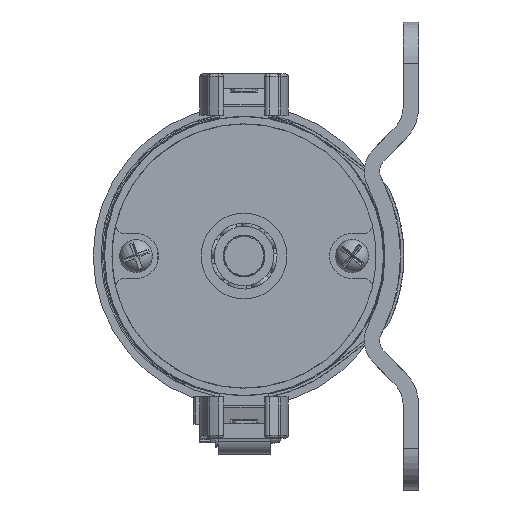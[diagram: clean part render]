
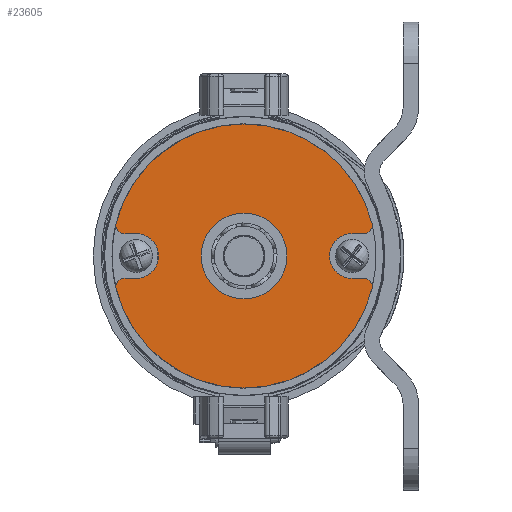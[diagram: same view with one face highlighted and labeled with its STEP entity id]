
A CAD part, left-side view. The second image highlights one B-rep face of the part: STEP entity #23605.
In plain terms, the highlighted planar face has unit normal (-1, 0, 0) as drawn and (0, 0, 1) by its records, which use the part's own axes.
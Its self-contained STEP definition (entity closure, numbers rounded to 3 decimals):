
#504 = CARTESIAN_POINT ( 'NONE',  ( 24.611, 6.282, 1.951 ) ) ;
#635 = DIRECTION ( 'NONE',  ( 1., 0., 0. ) ) ;
#1023 = VECTOR ( 'NONE', #3397, 1000. ) ;
#1326 = AXIS2_PLACEMENT_3D ( 'NONE', #20927, #9849, #10129 ) ;
#1491 = AXIS2_PLACEMENT_3D ( 'NONE', #18711, #22618, #635 ) ;
#1576 = CIRCLE ( 'NONE', #7332, 1.575 ) ;
#1577 = VERTEX_POINT ( 'NONE', #5078 ) ;
#1639 = DIRECTION ( 'NONE',  ( 1., 0., 0. ) ) ;
#2039 = CARTESIAN_POINT ( 'NONE',  ( 23.085, -4.318, 1.951 ) ) ;
#2764 = VERTEX_POINT ( 'NONE', #6944 ) ;
#3145 = CARTESIAN_POINT ( 'NONE',  ( -24.611, 6.282, 1.951 ) ) ;
#3273 = DIRECTION ( 'NONE',  ( 0., 0., 1. ) ) ;
#3397 = DIRECTION ( 'NONE',  ( -1., 0., 0. ) ) ;
#4185 = CARTESIAN_POINT ( 'NONE',  ( 0., 0., 1.951 ) ) ;
#5057 = CARTESIAN_POINT ( 'NONE',  ( 0., -4.318, 1.951 ) ) ;
#5078 = CARTESIAN_POINT ( 'NONE',  ( 23.085, 4.318, 1.951 ) ) ;
#5187 = CIRCLE ( 'NONE', #1491, 25.4 ) ;
#5283 = CARTESIAN_POINT ( 'NONE',  ( -20.764, 4.318, 1.951 ) ) ;
#5338 = CARTESIAN_POINT ( 'NONE',  ( 23.085, 5.893, 1.951 ) ) ;
#5733 = CARTESIAN_POINT ( 'NONE',  ( 20.764, -4.318, 1.951 ) ) ;
#5785 = CIRCLE ( 'NONE', #20530, 1.575 ) ;
#5981 = PLANE ( 'NONE',  #12010 ) ;
#5992 = VERTEX_POINT ( 'NONE', #10346 ) ;
#6110 = VERTEX_POINT ( 'NONE', #5283 ) ;
#6137 = EDGE_LOOP ( 'NONE', ( #19066, #19258, #19338, #19479, #19502, #19591, #19626, #19758, #19782, #19890, #19942, #20033 ) ) ;
#6628 = VERTEX_POINT ( 'NONE', #7706 ) ;
#6944 = CARTESIAN_POINT ( 'NONE',  ( -23.085, 4.318, 1.951 ) ) ;
#7332 = AXIS2_PLACEMENT_3D ( 'NONE', #16871, #16407, #16227 ) ;
#7471 = CARTESIAN_POINT ( 'NONE',  ( 0., 4.318, 1.951 ) ) ;
#7706 = CARTESIAN_POINT ( 'NONE',  ( -24.611, -6.282, 1.951 ) ) ;
#7871 = DIRECTION ( 'NONE',  ( 1., 0., 0. ) ) ;
#8004 = CIRCLE ( 'NONE', #1326, 8.255 ) ;
#8151 = DIRECTION ( 'NONE',  ( 1., 0., 0. ) ) ;
#8260 = LINE ( 'NONE', #21526, #8298 ) ;
#8298 = VECTOR ( 'NONE', #8557, 1000. ) ;
#8406 = DIRECTION ( 'NONE',  ( 1., 0., 0. ) ) ;
#8441 = CARTESIAN_POINT ( 'NONE',  ( 0., 4.318, 1.951 ) ) ;
#8492 = VERTEX_POINT ( 'NONE', #14483 ) ;
#8557 = DIRECTION ( 'NONE',  ( -1., 0., 0. ) ) ;
#8970 = EDGE_LOOP ( 'NONE', ( #19043 ) ) ;
#9819 = CARTESIAN_POINT ( 'NONE',  ( 20.764, 4.318, 1.951 ) ) ;
#9849 = DIRECTION ( 'NONE',  ( 0., 0., 1. ) ) ;
#10129 = DIRECTION ( 'NONE',  ( 1., 0., 0. ) ) ;
#10346 = CARTESIAN_POINT ( 'NONE',  ( -20.764, -4.318, 1.951 ) ) ;
#10772 = DIRECTION ( 'NONE',  ( 1., 0., 0. ) ) ;
#10846 = DIRECTION ( 'NONE',  ( 0., 0., 1. ) ) ;
#10899 = CARTESIAN_POINT ( 'NONE',  ( 20.764, 0., 1.951 ) ) ;
#10964 = AXIS2_PLACEMENT_3D ( 'NONE', #10899, #10846, #10772 ) ;
#11022 = EDGE_CURVE ( 'NONE', #5992, #16718, #8260, .T. ) ;
#11088 = EDGE_CURVE ( 'NONE', #8492, #8492, #8004, .T. ) ;
#11279 = FACE_BOUND ( 'NONE', #8970, .T. ) ;
#11330 = FACE_OUTER_BOUND ( 'NONE', #6137, .T. ) ;
#11489 = AXIS2_PLACEMENT_3D ( 'NONE', #22124, #22076, #22049 ) ;
#11550 = EDGE_CURVE ( 'NONE', #16718, #6628, #5785, .T. ) ;
#11702 = EDGE_CURVE ( 'NONE', #6628, #21448, #5187, .T. ) ;
#12010 = AXIS2_PLACEMENT_3D ( 'NONE', #4185, #18957, #7871 ) ;
#12116 = LINE ( 'NONE', #5057, #1023 ) ;
#12216 = EDGE_CURVE ( 'NONE', #21448, #14128, #1576, .T. ) ;
#12314 = EDGE_CURVE ( 'NONE', #14128, #14842, #12116, .T. ) ;
#12716 = DIRECTION ( 'NONE',  ( 1., 0., 0. ) ) ;
#12726 = EDGE_CURVE ( 'NONE', #17290, #14842, #21980, .T. ) ;
#12793 = DIRECTION ( 'NONE',  ( 0., 0., 1. ) ) ;
#12843 = EDGE_CURVE ( 'NONE', #17290, #1577, #21505, .T. ) ;
#12876 = CARTESIAN_POINT ( 'NONE',  ( 0., 0., 1.951 ) ) ;
#13256 = EDGE_CURVE ( 'NONE', #1577, #22949, #19547, .T. ) ;
#13325 = EDGE_CURVE ( 'NONE', #22949, #19478, #19422, .T. ) ;
#13436 = DIRECTION ( 'NONE',  ( -1., 0., 0. ) ) ;
#13800 = EDGE_CURVE ( 'NONE', #19478, #2764, #17395, .T. ) ;
#13851 = AXIS2_PLACEMENT_3D ( 'NONE', #5338, #3273, #1639 ) ;
#13863 = EDGE_CURVE ( 'NONE', #2764, #6110, #16559, .T. ) ;
#14128 = VERTEX_POINT ( 'NONE', #2039 ) ;
#14337 = EDGE_CURVE ( 'NONE', #5992, #6110, #15105, .T. ) ;
#14483 = CARTESIAN_POINT ( 'NONE',  ( 8.255, 0., 1.951 ) ) ;
#14842 = VERTEX_POINT ( 'NONE', #5733 ) ;
#15105 = CIRCLE ( 'NONE', #11489, 4.318 ) ;
#15276 = DIRECTION ( 'NONE',  ( 0., 0., 1. ) ) ;
#15373 = AXIS2_PLACEMENT_3D ( 'NONE', #18532, #18477, #18448 ) ;
#16227 = DIRECTION ( 'NONE',  ( 1., 0., 0. ) ) ;
#16407 = DIRECTION ( 'NONE',  ( 0., 0., 1. ) ) ;
#16559 = LINE ( 'NONE', #8441, #16609 ) ;
#16609 = VECTOR ( 'NONE', #8406, 1000. ) ;
#16718 = VERTEX_POINT ( 'NONE', #19523 ) ;
#16871 = CARTESIAN_POINT ( 'NONE',  ( 23.085, -5.893, 1.951 ) ) ;
#17104 = CARTESIAN_POINT ( 'NONE',  ( -23.085, -5.893, 1.951 ) ) ;
#17290 = VERTEX_POINT ( 'NONE', #9819 ) ;
#17395 = CIRCLE ( 'NONE', #15373, 1.575 ) ;
#18259 = CARTESIAN_POINT ( 'NONE',  ( 24.611, -6.282, 1.951 ) ) ;
#18448 = DIRECTION ( 'NONE',  ( -1., 0., 0. ) ) ;
#18477 = DIRECTION ( 'NONE',  ( 0., 0., 1. ) ) ;
#18532 = CARTESIAN_POINT ( 'NONE',  ( -23.085, 5.893, 1.951 ) ) ;
#18711 = CARTESIAN_POINT ( 'NONE',  ( 0., 0., 1.951 ) ) ;
#18957 = DIRECTION ( 'NONE',  ( 0., 0., 1. ) ) ;
#19043 = ORIENTED_EDGE ( 'NONE', *, *, #11088, .F. ) ;
#19066 = ORIENTED_EDGE ( 'NONE', *, *, #11022, .T. ) ;
#19258 = ORIENTED_EDGE ( 'NONE', *, *, #11550, .T. ) ;
#19338 = ORIENTED_EDGE ( 'NONE', *, *, #11702, .T. ) ;
#19422 = CIRCLE ( 'NONE', #21210, 25.4 ) ;
#19478 = VERTEX_POINT ( 'NONE', #3145 ) ;
#19479 = ORIENTED_EDGE ( 'NONE', *, *, #12216, .T. ) ;
#19502 = ORIENTED_EDGE ( 'NONE', *, *, #12314, .T. ) ;
#19523 = CARTESIAN_POINT ( 'NONE',  ( -23.085, -4.318, 1.951 ) ) ;
#19547 = CIRCLE ( 'NONE', #13851, 1.575 ) ;
#19591 = ORIENTED_EDGE ( 'NONE', *, *, #12726, .F. ) ;
#19626 = ORIENTED_EDGE ( 'NONE', *, *, #12843, .T. ) ;
#19758 = ORIENTED_EDGE ( 'NONE', *, *, #13256, .T. ) ;
#19782 = ORIENTED_EDGE ( 'NONE', *, *, #13325, .T. ) ;
#19890 = ORIENTED_EDGE ( 'NONE', *, *, #13800, .T. ) ;
#19942 = ORIENTED_EDGE ( 'NONE', *, *, #13863, .T. ) ;
#20033 = ORIENTED_EDGE ( 'NONE', *, *, #14337, .F. ) ;
#20530 = AXIS2_PLACEMENT_3D ( 'NONE', #17104, #15276, #13436 ) ;
#20927 = CARTESIAN_POINT ( 'NONE',  ( 0., 0., 1.951 ) ) ;
#21210 = AXIS2_PLACEMENT_3D ( 'NONE', #12876, #12793, #12716 ) ;
#21390 = VECTOR ( 'NONE', #8151, 1000. ) ;
#21448 = VERTEX_POINT ( 'NONE', #18259 ) ;
#21505 = LINE ( 'NONE', #7471, #21390 ) ;
#21526 = CARTESIAN_POINT ( 'NONE',  ( 0., -4.318, 1.951 ) ) ;
#21980 = CIRCLE ( 'NONE', #10964, 4.318 ) ;
#22049 = DIRECTION ( 'NONE',  ( -1., 0., 0. ) ) ;
#22076 = DIRECTION ( 'NONE',  ( 0., 0., 1. ) ) ;
#22124 = CARTESIAN_POINT ( 'NONE',  ( -20.764, 0., 1.951 ) ) ;
#22618 = DIRECTION ( 'NONE',  ( 0., 0., 1. ) ) ;
#22949 = VERTEX_POINT ( 'NONE', #504 ) ;
#23605 = ADVANCED_FACE ( 'NONE', ( #11279, #11330 ), #5981, .T. ) ;
